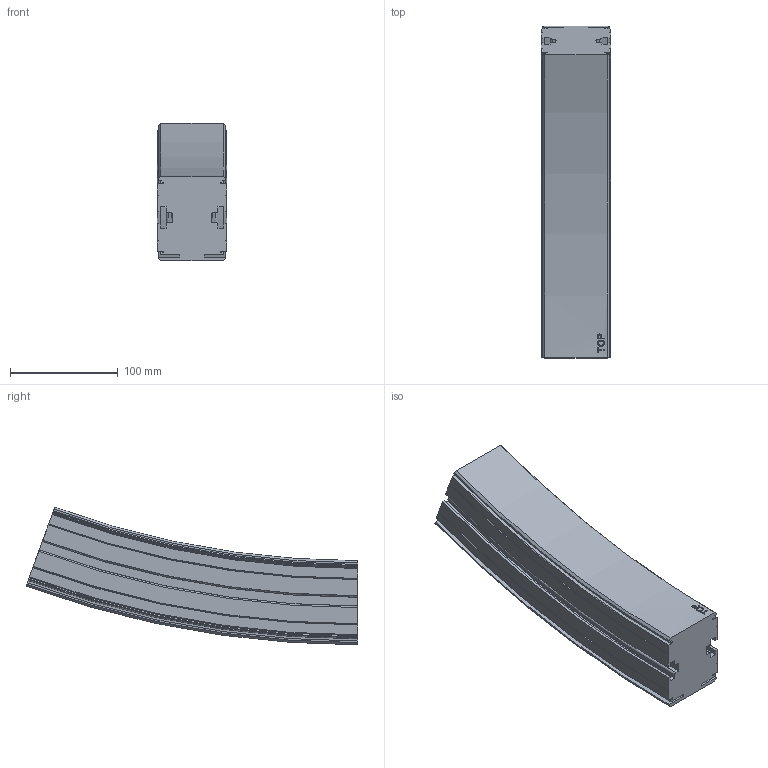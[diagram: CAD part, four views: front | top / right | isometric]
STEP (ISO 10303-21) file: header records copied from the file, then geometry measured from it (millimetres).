
FILE_DESCRIPTION(/* description */ ('VERTIKALKURVA S620 R860'),/* implementation_level */ '2;1');
FILE_NAME(/* name */ '\\carryline.intra\privat\users\mathias\Desktop\Tillfälliga filer\620-5695+620-2000-UPP-01.stp',/* time_stamp */ '2018-12-06T07:27:34+01:00',/* author */ ('MD'),/* organization */ ('CARRYLINE'),/* preprocessor_version */ 'ST-DEVELOPER v17',/* originating_system */ 'Autodesk Inventor 2018',/* authorisation */ '');
FILE_SCHEMA (('AUTOMOTIVE_DESIGN { 1 0 10303 214 3 1 1 }'));
Length unit declared in the file: millimetre
Products named in the file (1): 620-5695+620-2000-UPP-01
Bounding box: 64 x 307.82 x 127.57 mm (x, y, z)
Volume: 1340899.8 mm3; surface area: 154170 mm2
Topology: 1 solids, 1 shells, 149 faces, 426 edges, 284 vertices
Faces by surface type: plane 54, cylinder 37, torus 28, cone 16, bspline 14
Entity records: 9548 total; most frequent: CARTESIAN_POINT 5528, ORIENTED_EDGE 852, DIRECTION 836, EDGE_CURVE 426, AXIS2_PLACEMENT_3D 315, VERTEX_POINT 284, LINE 206, VECTOR 206
